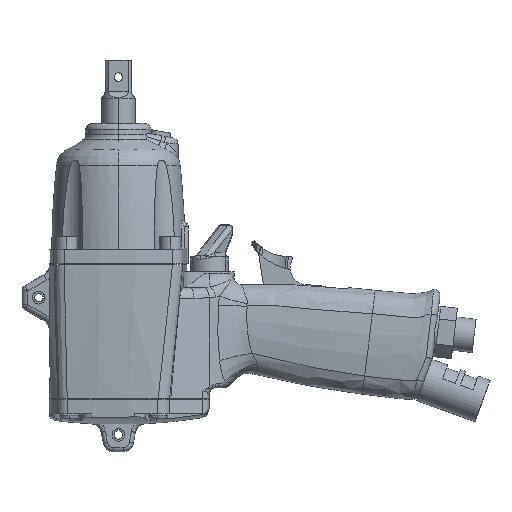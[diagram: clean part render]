
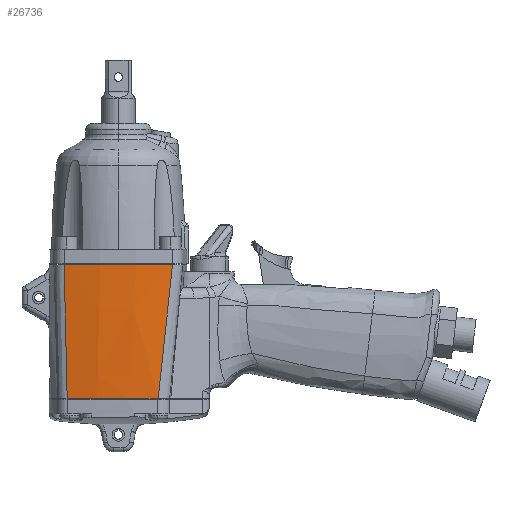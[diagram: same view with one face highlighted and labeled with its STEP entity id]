
A CAD part, left-side view. The second image highlights one B-rep face of the part: STEP entity #26736.
In plain terms, the highlighted free-form (B-spline) face has degree [3, 3] with [4, 8] control points.
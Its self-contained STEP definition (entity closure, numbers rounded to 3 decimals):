
#25436 = VERTEX_POINT ( 'NONE', #80546 ) ;
#25438 = EDGE_CURVE ( 'NONE', #25439, #25436, #80609, .T. ) ;
#25439 = VERTEX_POINT ( 'NONE', #80604 ) ;
#26687 = VERTEX_POINT ( 'NONE', #86350 ) ;
#26735 = EDGE_CURVE ( 'NONE', #26687, #25439, #86567, .T. ) ;
#26736 = ADVANCED_FACE ( 'NONE', ( #86575 ), #86570, .T. ) ;
#26737 = EDGE_LOOP ( 'NONE', ( #26738, #26739, #26740, #26741 ) ) ;
#26738 = ORIENTED_EDGE ( 'NONE', *, *, #26747, .F. ) ;
#26739 = ORIENTED_EDGE ( 'NONE', *, *, #26735, .T. ) ;
#26740 = ORIENTED_EDGE ( 'NONE', *, *, #25438, .T. ) ;
#26741 = ORIENTED_EDGE ( 'NONE', *, *, #26742, .F. ) ;
#26742 = EDGE_CURVE ( 'NONE', #26748, #25436, #86569, .T. ) ;
#26747 = EDGE_CURVE ( 'NONE', #26687, #26748, #86633, .T. ) ;
#26748 = VERTEX_POINT ( 'NONE', #86630 ) ;
#80546 = CARTESIAN_POINT ( 'NONE',  ( -32.954, -19.003, -63.7 ) ) ;
#80604 = CARTESIAN_POINT ( 'NONE',  ( -29.136, 24.426, -63.7 ) ) ;
#80605 = DIRECTION ( 'NONE',  ( 1., 0., 0. ) ) ;
#80606 = DIRECTION ( 'NONE',  ( 0., 0., 1. ) ) ;
#80607 = CARTESIAN_POINT ( 'NONE',  ( 167., -14.698, -63.7 ) ) ;
#80608 = AXIS2_PLACEMENT_3D ( 'NONE', #80607, #80606, #80605 ) ;
#80609 = CIRCLE ( 'NONE', #80608, 200. ) ;
#86350 = CARTESIAN_POINT ( 'NONE',  ( -30.751, 25.876, 0. ) ) ;
#86564 = DIRECTION ( 'NONE',  ( 0.025, -0.023, -0.999 ) ) ;
#86565 = VECTOR ( 'NONE', #86564, 1000. ) ;
#86566 = CARTESIAN_POINT ( 'NONE',  ( -29.944, 25.151, -31.85 ) ) ;
#86567 = LINE ( 'NONE', #86566, #86565 ) ;
#86569 = LINE ( 'NONE', #86574, #86573 ) ;
#86570 =( BOUNDED_SURFACE ( )  B_SPLINE_SURFACE ( 3, 3, ( 
 ( #86611, #86610, #86609, #86608, #86607, #86606, #86605, #86604 ),
 ( #86603, #86602, #86601, #86600, #86599, #86598, #86597, #86596 ),
 ( #86595, #86594, #86593, #86592, #86591, #86590, #86589, #86588 ),
 ( #86587, #86586, #86585, #86584, #86583, #86582, #86581, #86580 ) ),
 .UNSPECIFIED., .F., .F., .T. ) 
 B_SPLINE_SURFACE_WITH_KNOTS ( ( 4, 4 ),
 ( 4, 1, 1, 1, 1, 4 ),
 ( 0.625, 0.75 ),
 ( 0., 0.167, 0.333, 0.667, 0.833, 1. ),
 .UNSPECIFIED. ) 
 GEOMETRIC_REPRESENTATION_ITEM ( )  RATIONAL_B_SPLINE_SURFACE ( (
 ( 1., 1., 1., 1., 1., 1., 1., 1.),
 ( 0.99, 0.99, 0.991, 0.993, 0.993, 0.995, 0.996, 0.996),
 ( 0.99, 0.99, 0.991, 0.993, 0.993, 0.995, 0.996, 0.996),
 ( 1., 1., 1., 1., 1., 1., 1., 1.) ) ) 
 REPRESENTATION_ITEM ( '' )  SURFACE ( )  );
#86572 = DIRECTION ( 'NONE',  ( -0.034, 0.107, -0.994 ) ) ;
#86573 = VECTOR ( 'NONE', #86572, 1000. ) ;
#86574 = CARTESIAN_POINT ( 'NONE',  ( -31.852, -22.44, -31.85 ) ) ;
#86575 = FACE_OUTER_BOUND ( 'NONE', #26737, .T. ) ;
#86580 = CARTESIAN_POINT ( 'NONE',  ( -29.136, 24.426, -63.7 ) ) ;
#86581 = CARTESIAN_POINT ( 'NONE',  ( -29.226, 24.506, -60.161 ) ) ;
#86582 = CARTESIAN_POINT ( 'NONE',  ( -29.405, 24.667, -53.083 ) ) ;
#86583 = CARTESIAN_POINT ( 'NONE',  ( -29.764, 24.99, -38.928 ) ) ;
#86584 = CARTESIAN_POINT ( 'NONE',  ( -30.123, 25.312, -24.772 ) ) ;
#86585 = CARTESIAN_POINT ( 'NONE',  ( -30.482, 25.634, -10.617 ) ) ;
#86586 = CARTESIAN_POINT ( 'NONE',  ( -30.661, 25.796, -3.539 ) ) ;
#86587 = CARTESIAN_POINT ( 'NONE',  ( -30.751, 25.876, 0. ) ) ;
#86588 = CARTESIAN_POINT ( 'NONE',  ( -31.99, 10.117, -63.7 ) ) ;
#86589 = CARTESIAN_POINT ( 'NONE',  ( -32.096, 10.063, -59.771 ) ) ;
#86590 = CARTESIAN_POINT ( 'NONE',  ( -32.307, 9.954, -51.907 ) ) ;
#86591 = CARTESIAN_POINT ( 'NONE',  ( -32.713, 9.664, -37.211 ) ) ;
#86592 = CARTESIAN_POINT ( 'NONE',  ( -33.107, 9.349, -23.034 ) ) ;
#86593 = CARTESIAN_POINT ( 'NONE',  ( -33.488, 9.015, -9.398 ) ) ;
#86594 = CARTESIAN_POINT ( 'NONE',  ( -33.667, 8.813, -3.135 ) ) ;
#86595 = CARTESIAN_POINT ( 'NONE',  ( -33.757, 8.712, 0. ) ) ;
#86596 = CARTESIAN_POINT ( 'NONE',  ( -33.268, -4.417, -63.7 ) ) ;
#86597 = CARTESIAN_POINT ( 'NONE',  ( -33.282, -4.656, -60.025 ) ) ;
#86598 = CARTESIAN_POINT ( 'NONE',  ( -33.311, -5.134, -52.67 ) ) ;
#86599 = CARTESIAN_POINT ( 'NONE',  ( -33.399, -6.087, -38.308 ) ) ;
#86600 = CARTESIAN_POINT ( 'NONE',  ( -33.511, -7.039, -24.128 ) ) ;
#86601 = CARTESIAN_POINT ( 'NONE',  ( -33.643, -7.996, -10.162 ) ) ;
#86602 = CARTESIAN_POINT ( 'NONE',  ( -33.719, -8.474, -3.389 ) ) ;
#86603 = CARTESIAN_POINT ( 'NONE',  ( -33.757, -8.712, 0. ) ) ;
#86604 = CARTESIAN_POINT ( 'NONE',  ( -32.954, -19.003, -63.7 ) ) ;
#86605 = CARTESIAN_POINT ( 'NONE',  ( -32.831, -19.385, -60.161 ) ) ;
#86606 = CARTESIAN_POINT ( 'NONE',  ( -32.587, -20.149, -53.083 ) ) ;
#86607 = CARTESIAN_POINT ( 'NONE',  ( -32.097, -21.676, -38.928 ) ) ;
#86608 = CARTESIAN_POINT ( 'NONE',  ( -31.608, -23.203, -24.772 ) ) ;
#86609 = CARTESIAN_POINT ( 'NONE',  ( -31.118, -24.731, -10.617 ) ) ;
#86610 = CARTESIAN_POINT ( 'NONE',  ( -30.874, -25.494, -3.539 ) ) ;
#86611 = CARTESIAN_POINT ( 'NONE',  ( -30.751, -25.876, 0. ) ) ;
#86627 = DIRECTION ( 'NONE',  ( 1., 0., 0. ) ) ;
#86628 = DIRECTION ( 'NONE',  ( 0., 0., 1. ) ) ;
#86629 = CARTESIAN_POINT ( 'NONE',  ( 117., 0., 0. ) ) ;
#86630 = CARTESIAN_POINT ( 'NONE',  ( -30.751, -25.876, 0. ) ) ;
#86632 = AXIS2_PLACEMENT_3D ( 'NONE', #86629, #86628, #86627 ) ;
#86633 = CIRCLE ( 'NONE', #86632, 150. ) ;
